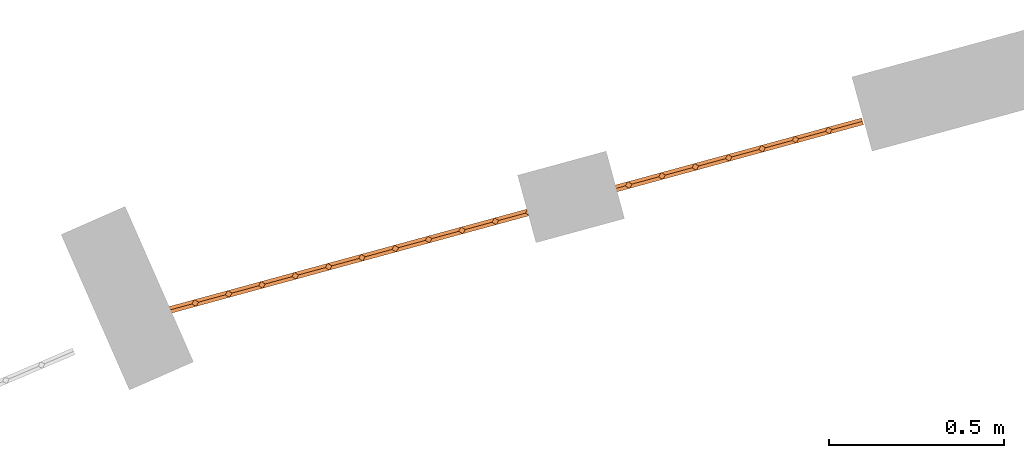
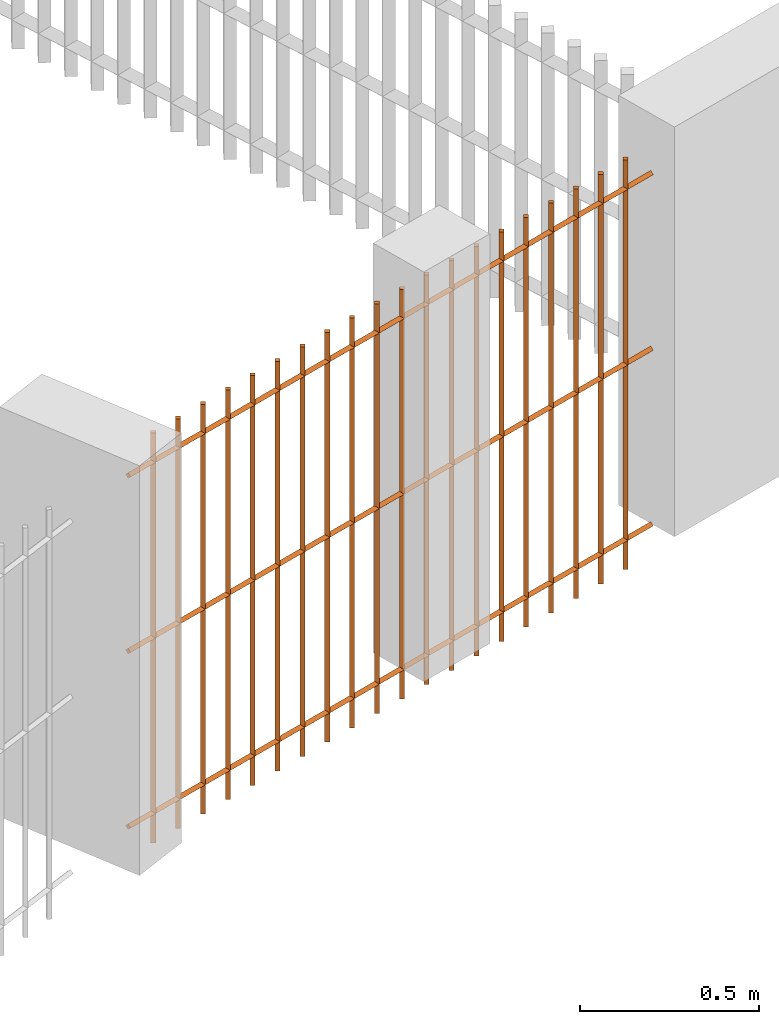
# One storey, part 191 of 195: 1 proxy.
"""IFC2X3 building model written with IfcOpenShell, lengths in metres."""

import ifcopenshell
import ifcopenshell.guid

model = None  # the IFC model being written
_history = None  # IfcOwnerHistory: only IFC2X3 demands one
_inside = {}  # id of a spatial element -> (the spatial element, [elements in it])
_under = {}  # id of a project, library or spatial element -> (it, [spatial elements below it])
_declared = {}  # id of a project -> (the project, [libraries it declares])
_typed = {}  # id of a type object -> (the type object, [elements of that type])
_made_of = {}  # id of a material, layer set ... -> (it, [elements and type objects made of it])


def new_model(schema):
    """Start an empty IFC model of exactly this schema.

    Asked for "IFC4X3", IfcOpenShell would pick the latest addendum, in which some entities
    have other attributes; the version numbers below select the first issue.
    IFC2X3 requires an IfcOwnerHistory on every rooted entity: one is made here for all.
    """
    global model, _history
    if schema == "IFC4X3":
        model = ifcopenshell.file(schema_version=(4, 3, 0, 0))
    else:
        model = ifcopenshell.file(schema=schema)
    _inside.clear()
    _under.clear()
    _declared.clear()
    _typed.clear()
    _made_of.clear()
    _history = None
    if model.schema == "IFC2X3":
        org = make("IfcOrganization", Name="unknown")
        user = make(
            "IfcPersonAndOrganization",
            ThePerson=make("IfcPerson", FamilyName="unknown"),
            TheOrganization=org,
        )
        app = make(
            "IfcApplication",
            ApplicationDeveloper=org,
            Version="unknown",
            ApplicationFullName="unknown",
            ApplicationIdentifier="unknown",
        )
        _history = make(
            "IfcOwnerHistory",
            OwningUser=user,
            OwningApplication=app,
            ChangeAction="ADDED",
            CreationDate=0,
        )
    return model


def make(cls, **values):
    """One entity of the class cls with the attributes given. An attribute that is None is left unset."""
    return model.create_entity(
        cls, **{name: value for name, value in values.items() if value is not None}
    )


def entity(cls, *values):
    """Any entity or typed value of the class cls, its attributes in the order of the schema. None: left unset."""
    e = model.create_entity(cls)
    for i, value in enumerate(values):
        if value is not None:
            e[i] = value
    return e


def rooted(cls, **values):
    """An entity with a GlobalId (a new one), such as an element, a storey or a relation."""
    return make(cls, GlobalId=ifcopenshell.guid.new(), OwnerHistory=_history, **values)


def si_unit(unit_type, name, prefix=None):
    """IfcSIUnit, for example si_unit("LENGTHUNIT", "METRE", prefix="MILLI")."""
    return make("IfcSIUnit", UnitType=unit_type, Prefix=prefix, Name=name)


def converted_unit(unit_type, name, factor, base, dimensions=None, offset=None):
    """IfcConversionBasedUnit, such as the inch: factor (a typed value) times the base unit."""
    return make(
        "IfcConversionBasedUnit"
        if offset is None
        else "IfcConversionBasedUnitWithOffset",
        ConversionOffset=offset,
        Dimensions=None
        if dimensions is None
        else entity("IfcDimensionalExponents", *dimensions),
        UnitType=unit_type,
        Name=name,
        ConversionFactor=make(
            "IfcMeasureWithUnit", ValueComponent=factor, UnitComponent=base
        ),
    )


def derived_unit(unit_type, elements):
    """IfcDerivedUnit: a product of units, each with its exponent."""
    return make(
        "IfcDerivedUnit",
        Elements=[
            make("IfcDerivedUnitElement", Unit=unit, Exponent=power)
            for unit, power in elements
        ],
        UnitType=unit_type,
    )


def money_unit(currency):
    """IfcMonetaryUnit."""
    return make("IfcMonetaryUnit", Currency=currency)


def assignment(units):
    """IfcUnitAssignment: the units of a project."""
    return None if units is None else make("IfcUnitAssignment", Units=units)


def point(xyz):
    """IfcCartesianPoint."""
    return None if xyz is None else make("IfcCartesianPoint", Coordinates=xyz)


def direction(xyz):
    """IfcDirection."""
    return None if xyz is None else make("IfcDirection", DirectionRatios=xyz)


def frame(location, z_axis=None, x_axis=None):
    """IfcAxis2Placement3D, a coordinate frame: its origin and axes. An axis left out is left unset."""
    return make(
        "IfcAxis2Placement3D",
        Location=point(location),
        Axis=direction(z_axis),
        RefDirection=direction(x_axis),
    )


def origin_with_axes():
    """The frame at (0, 0, 0) with the z axis (0, 0, 1) and the x axis (1, 0, 0) written out."""
    return frame((0.0, 0.0, 0.0), z_axis=(0.0, 0.0, 1.0), x_axis=(1.0, 0.0, 0.0))


def place(relative_to, where):
    """IfcLocalPlacement: puts the frame where relative to a parent placement (None: the world)."""
    return make(
        "IfcLocalPlacement", PlacementRelTo=relative_to, RelativePlacement=where
    )


def context(
    kind, dimensions, precision=None, world=None, true_north=None, identifier=None
):
    """IfcGeometricRepresentationContext, for example the 3D "Model" context."""
    return make(
        "IfcGeometricRepresentationContext",
        ContextIdentifier=identifier,
        ContextType=kind,
        CoordinateSpaceDimension=dimensions,
        Precision=precision,
        WorldCoordinateSystem=world,
        TrueNorth=true_north,
    )


def subcontext(parent, identifier, kind, view, scale=None):
    """IfcGeometricRepresentationSubContext, for example "Body" below "Model"."""
    return make(
        "IfcGeometricRepresentationSubContext",
        ContextIdentifier=identifier,
        ContextType=kind,
        ParentContext=parent,
        TargetScale=scale,
        TargetView=view,
    )


def project(units=None, contexts=None):
    """IfcProject with its units and contexts."""
    return rooted(
        "IfcProject",
        Name="project",
        RepresentationContexts=contexts,
        UnitsInContext=assignment(units),
    )


def spatial(cls, under=None, at=None, **own):
    """A site, building, storey or space (cls), placed at a placement, below another one or the project."""
    s = rooted(cls, ObjectPlacement=at, **own)
    if under is not None:
        _under.setdefault(under.id(), (under, []))[1].append(s)
    return s


def faces_of(points, faces, orient=None, outer=None):
    """IfcFace entities. A face is a list of loops; a loop is a list of indices into points, from 0.

    orient and outer hold one flag for each loop. By default every Orientation is true, the
    first loop of a face is its IfcFaceOuterBound and the others are IfcFaceBound.
    """
    made = []
    for i, loops in enumerate(faces):
        bounds = []
        for j, loop in enumerate(loops):
            is_outer = j == 0 if outer is None else outer[i][j]
            bounds.append(
                make(
                    "IfcFaceOuterBound" if is_outer else "IfcFaceBound",
                    Bound=make("IfcPolyLoop", Polygon=[points[k] for k in loop]),
                    Orientation=True if orient is None else orient[i][j],
                )
            )
        made.append(make("IfcFace", Bounds=bounds))
    return made


def faceted_brep(points, faces, orient=None, outer=None, voids=None):
    """IfcFacetedBrep: a solid bounded by flat faces; with voids (closed shells), ...WithVoids."""
    shared = [point(p) for p in points]
    hull = make("IfcClosedShell", CfsFaces=faces_of(shared, faces, orient, outer))
    if voids is None:
        return make("IfcFacetedBrep", Outer=hull)
    return make(
        "IfcFacetedBrepWithVoids",
        Outer=hull,
        Voids=[
            make(cls, CfsFaces=faces_of(shared, fs, o, b)) for cls, fs, o, b in voids
        ],
    )


def shape(context_of_items, identifier, shape_type, items):
    """IfcShapeRepresentation: the items that make up one representation, for example the "Body"."""
    return make(
        "IfcShapeRepresentation",
        ContextOfItems=context_of_items,
        RepresentationIdentifier=identifier,
        RepresentationType=shape_type,
        Items=items,
    )


def made_of(thing, what):
    """Note that an element or type object is made of a material, layer set ...; save() writes the relation."""
    if what is not None:
        _made_of.setdefault(what.id(), (what, []))[1].append(thing)
    return thing


def type_object(cls, material=None, **own):
    """A type object (cls), such as IfcWallType, which elements share."""
    return made_of(rooted(cls, **own), material)


def element(
    cls,
    number,
    at=None,
    inside=None,
    cuts=None,
    type_object=None,
    material=None,
    context=None,
    identifier="Body",
    shape_type=None,
    held_by="IfcProductDefinitionShape",
    body=None,
    shapes=None,
    **own,
):
    """One element of the class cls, such as IfcWall. Its Tag is "e" and its number.

    at: its placement. inside: the storey or other place that contains it. cuts: it is an
    opening in that element (IfcRelVoidsElement). A single representation is given by context,
    identifier, shape_type and body (its items); several are given by shapes. held_by: the class
    of the entity that holds the representations. save() writes the other relations.
    """
    e = rooted(cls, Tag="e%d" % number, ObjectPlacement=at, **own)
    if body is not None:
        shapes = [shape(context, identifier, shape_type, body)]
    if shapes is not None:
        e.Representation = make(held_by, Representations=shapes)
    if inside is not None:
        _inside.setdefault(inside.id(), (inside, []))[1].append(e)
    if cuts is not None:
        rooted(
            "IfcRelVoidsElement", RelatingBuildingElement=cuts, RelatedOpeningElement=e
        )
    if type_object is not None:
        _typed.setdefault(type_object.id(), (type_object, []))[1].append(e)
    return made_of(e, material)


def aggregate(whole, parts):
    """IfcRelAggregates: a whole, such as a stair, and the parts it consists of."""
    return rooted("IfcRelAggregates", RelatingObject=whole, RelatedObjects=parts)


def save(model, path):
    """Write the relations noted so far, then the file.

    IfcRelAggregates (storeys below a building ...), IfcRelContainedInSpatialStructure (elements
    in a storey), IfcRelDefinesByType, IfcRelAssociatesMaterial and IfcRelDeclares: one each for
    every whole, place, type object, material and project.
    """
    for whole, parts in _under.values():
        aggregate(whole, parts)
    for where, things in _inside.values():
        rooted(
            "IfcRelContainedInSpatialStructure",
            RelatedElements=things,
            RelatingStructure=where,
        )
    for kind, things in _typed.values():
        rooted("IfcRelDefinesByType", RelatedObjects=things, RelatingType=kind)
    for what, things in _made_of.values():
        rooted("IfcRelAssociatesMaterial", RelatedObjects=things, RelatingMaterial=what)
    for by, libraries in _declared.values():
        rooted("IfcRelDeclares", RelatingContext=by, RelatedDefinitions=libraries)
    model.write(path)


model = new_model("IFC2X3")

# Units and contexts
model_context = context("Model", 3, precision=1e-05, world=origin_with_axes(), true_north=direction((0.0, 1.0)))
body_context = subcontext(model_context, "Body", "Model", "MODEL_VIEW")
ifc_project = project(units=[si_unit("LENGTHUNIT", "METRE"), si_unit("AREAUNIT", "SQUARE_METRE"), si_unit("VOLUMEUNIT", "CUBIC_METRE"), converted_unit("PLANEANGLEUNIT", "DEGREE", entity("IfcPlaneAngleMeasure", 0.0174532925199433), si_unit("PLANEANGLEUNIT", "RADIAN"), dimensions=[0, 0, 0, 0, 0, 0, 0]), money_unit("CHF"), converted_unit("TIMEUNIT", "Year", entity("IfcTimeMeasure", 31557600.0), si_unit("TIMEUNIT", "SECOND"), dimensions=[0, 0, 1, 0, 0, 0, 0]), si_unit("MASSUNIT", "GRAM", prefix="KILO"), si_unit("THERMODYNAMICTEMPERATUREUNIT", "DEGREE_CELSIUS"), si_unit("LUMINOUSINTENSITYUNIT", "LUMEN"), si_unit("ENERGYUNIT", "JOULE", prefix="MEGA"), derived_unit("THERMALCONDUCTANCEUNIT", [(si_unit("POWERUNIT", "WATT"), 1), (si_unit("LENGTHUNIT", "METRE"), -1), (si_unit("THERMODYNAMICTEMPERATUREUNIT", "KELVIN"), -1)]), derived_unit("SPECIFICHEATCAPACITYUNIT", [(si_unit("ENERGYUNIT", "JOULE"), 1), (si_unit("MASSUNIT", "GRAM", prefix="KILO"), -1), (si_unit("THERMODYNAMICTEMPERATUREUNIT", "KELVIN"), -1)]), derived_unit("MASSDENSITYUNIT", [(si_unit("MASSUNIT", "GRAM", prefix="KILO"), 1), (si_unit("VOLUMEUNIT", "CUBIC_METRE"), -1)])], contexts=[model_context])

# Site, building, storey
site_placement = place(None, origin_with_axes())
site = spatial("IfcSite", under=ifc_project, at=site_placement, Name="Site", CompositionType="ELEMENT")
building_placement = place(site_placement, origin_with_axes())
building = spatial("IfcBuilding", under=site, at=building_placement, Name="Bâtiment", CompositionType="ELEMENT")
storey_placement = place(building_placement, origin_with_axes())
storey = spatial("IfcBuildingStorey", under=building, at=storey_placement, Name="rdc", CompositionType="ELEMENT", Elevation=0.0)

# Proxy
building_element_proxy_type = type_object("IfcBuildingElementProxyType", Name="Grille anti-effraction", PredefinedType="NOTDEFINED")
proxy_placement = place(storey_placement, frame((9583.670518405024, -1060.989714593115, 57.6), z_axis=(0.0, 0.0, 1.0), x_axis=(-0.9648682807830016, -0.2627340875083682, 0.0)))
element("IfcBuildingElementProxy", 1, at=proxy_placement, inside=storey, type_object=building_element_proxy_type, Name="Obj.-010", context=body_context, shape_type="Brep", body=[
    faceted_brep([(-1.038814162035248, -0.01, 0.1), (-1.038814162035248, 0.0, 0.11), (-1.038814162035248, 0.01, 0.1), (-1.038814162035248, 0.0, 0.09000000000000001), (1.038814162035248, -0.01, 0.1000000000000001), (1.038814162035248, 0.0, 0.1100000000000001), (1.038814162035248, 0.01, 0.1000000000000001), (1.038814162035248, 0.0, 0.09000000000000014)], [[[0, 1, 2, 3]], [[1, 0, 4, 5]], [[2, 1, 5, 6]], [[3, 2, 6, 7]], [[0, 3, 7, 4]], [[4, 7, 6, 5]]]),
    faceted_brep([(-1.038814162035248, -0.01, 0.7), (-1.038814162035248, 0.0, 0.71), (-1.038814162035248, 0.01, 0.7), (-1.038814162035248, 0.0, 0.69), (1.038814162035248, -0.01, 0.7000000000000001), (1.038814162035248, 0.0, 0.7100000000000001), (1.038814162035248, 0.01, 0.7000000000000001), (1.038814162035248, 0.0, 0.6900000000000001)], [[[0, 1, 2, 3]], [[1, 0, 4, 5]], [[2, 1, 5, 6]], [[3, 2, 6, 7]], [[0, 3, 7, 4]], [[4, 7, 6, 5]]]),
    faceted_brep([(-1.038814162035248, -0.01, 1.3), (-1.038814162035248, 0.0, 1.31), (-1.038814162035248, 0.01, 1.3), (-1.038814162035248, 0.0, 1.29), (1.038814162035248, -0.01, 1.3), (1.038814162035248, 0.0, 1.31), (1.038814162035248, 0.01, 1.3), (1.038814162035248, 0.0, 1.29)], [[[0, 1, 2, 3]], [[1, 0, 4, 5]], [[2, 1, 5, 6]], [[3, 2, 6, 7]], [[0, 3, 7, 4]], [[4, 7, 6, 5]]]),
    faceted_brep([(-0.9388141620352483, -0.01, 0.0), (-0.9488141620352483, 0.0, 0.0), (-0.9388141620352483, 0.01, 0.0), (-0.9288141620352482, 0.0, 0.0), (-0.9388141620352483, -0.01, 1.4), (-0.9488141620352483, 0.0, 1.4), (-0.9388141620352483, 0.01, 1.4), (-0.9288141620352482, 0.0, 1.4)], [[[0, 1, 2, 3]], [[1, 0, 4, 5]], [[2, 1, 5, 6]], [[3, 2, 6, 7]], [[0, 3, 7, 4]], [[4, 7, 6, 5]]]),
    faceted_brep([(-0.8399916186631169, -0.01, 0.0), (-0.8499916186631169, 0.0, 0.0), (-0.8399916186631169, 0.01, 0.0), (-0.8299916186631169, 0.0, 0.0), (-0.8399916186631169, -0.01, 1.4), (-0.8499916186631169, 0.0, 1.4), (-0.8399916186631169, 0.01, 1.4), (-0.8299916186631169, 0.0, 1.4)], [[[0, 1, 2, 3]], [[1, 0, 4, 5]], [[2, 1, 5, 6]], [[3, 2, 6, 7]], [[0, 3, 7, 4]], [[4, 7, 6, 5]]]),
    faceted_brep([(-0.7411690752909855, -0.01, 0.0), (-0.7511690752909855, 0.0, 0.0), (-0.7411690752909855, 0.01, 0.0), (-0.7311690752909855, 0.0, 0.0), (-0.7411690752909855, -0.01, 1.4), (-0.7511690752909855, 0.0, 1.4), (-0.7411690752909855, 0.01, 1.4), (-0.7311690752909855, 0.0, 1.4)], [[[0, 1, 2, 3]], [[1, 0, 4, 5]], [[2, 1, 5, 6]], [[3, 2, 6, 7]], [[0, 3, 7, 4]], [[4, 7, 6, 5]]]),
    faceted_brep([(-0.6423465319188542, -0.01, 0.0), (-0.6523465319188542, 0.0, 0.0), (-0.6423465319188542, 0.01, 0.0), (-0.6323465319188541, 0.0, 0.0), (-0.6423465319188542, -0.01, 1.4), (-0.6523465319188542, 0.0, 1.4), (-0.6423465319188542, 0.01, 1.4), (-0.6323465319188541, 0.0, 1.4)], [[[0, 1, 2, 3]], [[1, 0, 4, 5]], [[2, 1, 5, 6]], [[3, 2, 6, 7]], [[0, 3, 7, 4]], [[4, 7, 6, 5]]]),
    faceted_brep([(-0.5435239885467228, -0.01, 0.0), (-0.5535239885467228, 0.0, 0.0), (-0.5435239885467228, 0.01, 0.0), (-0.5335239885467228, 0.0, 0.0), (-0.5435239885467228, -0.01, 1.4), (-0.5535239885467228, 0.0, 1.4), (-0.5435239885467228, 0.01, 1.4), (-0.5335239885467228, 0.0, 1.4)], [[[0, 1, 2, 3]], [[1, 0, 4, 5]], [[2, 1, 5, 6]], [[3, 2, 6, 7]], [[0, 3, 7, 4]], [[4, 7, 6, 5]]]),
    faceted_brep([(-0.4447014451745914, -0.01, 0.0), (-0.4547014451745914, 0.0, 0.0), (-0.4447014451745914, 0.01, 0.0), (-0.4347014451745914, 0.0, 0.0), (-0.4447014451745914, -0.01, 1.4), (-0.4547014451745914, 0.0, 1.4), (-0.4447014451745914, 0.01, 1.4), (-0.4347014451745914, 0.0, 1.4)], [[[0, 1, 2, 3]], [[1, 0, 4, 5]], [[2, 1, 5, 6]], [[3, 2, 6, 7]], [[0, 3, 7, 4]], [[4, 7, 6, 5]]]),
    faceted_brep([(-0.3458789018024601, -0.01, 0.0), (-0.3558789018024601, 0.0, 0.0), (-0.3458789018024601, 0.01, 0.0), (-0.3358789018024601, 0.0, 0.0), (-0.3458789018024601, -0.01, 1.4), (-0.3558789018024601, 0.0, 1.4), (-0.3458789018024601, 0.01, 1.4), (-0.3358789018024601, 0.0, 1.4)], [[[0, 1, 2, 3]], [[1, 0, 4, 5]], [[2, 1, 5, 6]], [[3, 2, 6, 7]], [[0, 3, 7, 4]], [[4, 7, 6, 5]]]),
    faceted_brep([(-0.2470563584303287, -0.01, 0.0), (-0.2570563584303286, 0.0, 0.0), (-0.2470563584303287, 0.01, 0.0), (-0.2370563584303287, 0.0, 0.0), (-0.2470563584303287, -0.01, 1.4), (-0.2570563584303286, 0.0, 1.4), (-0.2470563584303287, 0.01, 1.4), (-0.2370563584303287, 0.0, 1.4)], [[[0, 1, 2, 3]], [[1, 0, 4, 5]], [[2, 1, 5, 6]], [[3, 2, 6, 7]], [[0, 3, 7, 4]], [[4, 7, 6, 5]]]),
    faceted_brep([(-0.1482338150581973, -0.01, 0.0), (-0.1582338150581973, 0.0, 0.0), (-0.1482338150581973, 0.01, 0.0), (-0.1382338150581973, 0.0, 0.0), (-0.1482338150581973, -0.01, 1.4), (-0.1582338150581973, 0.0, 1.4), (-0.1482338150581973, 0.01, 1.4), (-0.1382338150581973, 0.0, 1.4)], [[[0, 1, 2, 3]], [[1, 0, 4, 5]], [[2, 1, 5, 6]], [[3, 2, 6, 7]], [[0, 3, 7, 4]], [[4, 7, 6, 5]]]),
    faceted_brep([(-0.04941127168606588, -0.01, 0.0), (-0.05941127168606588, 0.0, 0.0), (-0.04941127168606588, 0.01, 0.0), (-0.03941127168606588, 0.0, 0.0), (-0.04941127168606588, -0.01, 1.4), (-0.05941127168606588, 0.0, 1.4), (-0.04941127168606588, 0.01, 1.4), (-0.03941127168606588, 0.0, 1.4)], [[[0, 1, 2, 3]], [[1, 0, 4, 5]], [[2, 1, 5, 6]], [[3, 2, 6, 7]], [[0, 3, 7, 4]], [[4, 7, 6, 5]]]),
    faceted_brep([(0.04941127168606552, -0.01, 0.0), (0.03941127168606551, 0.0, 0.0), (0.04941127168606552, 0.01, 0.0), (0.05941127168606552, 0.0, 0.0), (0.04941127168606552, -0.01, 1.4), (0.03941127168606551, 0.0, 1.4), (0.04941127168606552, 0.01, 1.4), (0.05941127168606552, 0.0, 1.4)], [[[0, 1, 2, 3]], [[1, 0, 4, 5]], [[2, 1, 5, 6]], [[3, 2, 6, 7]], [[0, 3, 7, 4]], [[4, 7, 6, 5]]]),
    faceted_brep([(0.1482338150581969, -0.01, 0.0), (0.1382338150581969, 0.0, 0.0), (0.1482338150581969, 0.01, 0.0), (0.1582338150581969, 0.0, 0.0), (0.1482338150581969, -0.01, 1.4), (0.1382338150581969, 0.0, 1.4), (0.1482338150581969, 0.01, 1.4), (0.1582338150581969, 0.0, 1.4)], [[[0, 1, 2, 3]], [[1, 0, 4, 5]], [[2, 1, 5, 6]], [[3, 2, 6, 7]], [[0, 3, 7, 4]], [[4, 7, 6, 5]]]),
    faceted_brep([(0.2470563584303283, -0.01, 0.0), (0.2370563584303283, 0.0, 0.0), (0.2470563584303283, 0.01, 0.0), (0.2570563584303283, 0.0, 0.0), (0.2470563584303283, -0.01, 1.4), (0.2370563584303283, 0.0, 1.4), (0.2470563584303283, 0.01, 1.4), (0.2570563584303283, 0.0, 1.4)], [[[0, 1, 2, 3]], [[1, 0, 4, 5]], [[2, 1, 5, 6]], [[3, 2, 6, 7]], [[0, 3, 7, 4]], [[4, 7, 6, 5]]]),
    faceted_brep([(0.3458789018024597, -0.01, 0.0), (0.3358789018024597, 0.0, 0.0), (0.3458789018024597, 0.01, 0.0), (0.3558789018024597, 0.0, 0.0), (0.3458789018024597, -0.01, 1.4), (0.3358789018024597, 0.0, 1.4), (0.3458789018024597, 0.01, 1.4), (0.3558789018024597, 0.0, 1.4)], [[[0, 1, 2, 3]], [[1, 0, 4, 5]], [[2, 1, 5, 6]], [[3, 2, 6, 7]], [[0, 3, 7, 4]], [[4, 7, 6, 5]]]),
    faceted_brep([(0.4447014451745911, -0.01, 0.0), (0.4347014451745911, 0.0, 0.0), (0.4447014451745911, 0.01, 0.0), (0.4547014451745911, 0.0, 0.0), (0.4447014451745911, -0.01, 1.4), (0.4347014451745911, 0.0, 1.4), (0.4447014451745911, 0.01, 1.4), (0.4547014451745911, 0.0, 1.4)], [[[0, 1, 2, 3]], [[1, 0, 4, 5]], [[2, 1, 5, 6]], [[3, 2, 6, 7]], [[0, 3, 7, 4]], [[4, 7, 6, 5]]]),
    faceted_brep([(0.5435239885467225, -0.01, 0.0), (0.5335239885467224, 0.0, 0.0), (0.5435239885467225, 0.01, 0.0), (0.5535239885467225, 0.0, 0.0), (0.5435239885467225, -0.01, 1.4), (0.5335239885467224, 0.0, 1.4), (0.5435239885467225, 0.01, 1.4), (0.5535239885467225, 0.0, 1.4)], [[[0, 1, 2, 3]], [[1, 0, 4, 5]], [[2, 1, 5, 6]], [[3, 2, 6, 7]], [[0, 3, 7, 4]], [[4, 7, 6, 5]]]),
    faceted_brep([(0.6423465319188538, -0.01, 0.0), (0.6323465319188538, 0.0, 0.0), (0.6423465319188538, 0.01, 0.0), (0.6523465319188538, 0.0, 0.0), (0.6423465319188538, -0.01, 1.4), (0.6323465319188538, 0.0, 1.4), (0.6423465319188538, 0.01, 1.4), (0.6523465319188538, 0.0, 1.4)], [[[0, 1, 2, 3]], [[1, 0, 4, 5]], [[2, 1, 5, 6]], [[3, 2, 6, 7]], [[0, 3, 7, 4]], [[4, 7, 6, 5]]]),
    faceted_brep([(0.7411690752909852, -0.01, 0.0), (0.7311690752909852, 0.0, 0.0), (0.7411690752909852, 0.01, 0.0), (0.7511690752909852, 0.0, 0.0), (0.7411690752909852, -0.01, 1.4), (0.7311690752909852, 0.0, 1.4), (0.7411690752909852, 0.01, 1.4), (0.7511690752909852, 0.0, 1.4)], [[[0, 1, 2, 3]], [[1, 0, 4, 5]], [[2, 1, 5, 6]], [[3, 2, 6, 7]], [[0, 3, 7, 4]], [[4, 7, 6, 5]]]),
    faceted_brep([(0.8399916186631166, -0.01, 0.0), (0.8299916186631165, 0.0, 0.0), (0.8399916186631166, 0.01, 0.0), (0.8499916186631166, 0.0, 0.0), (0.8399916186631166, -0.01, 1.4), (0.8299916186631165, 0.0, 1.4), (0.8399916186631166, 0.01, 1.4), (0.8499916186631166, 0.0, 1.4)], [[[0, 1, 2, 3]], [[1, 0, 4, 5]], [[2, 1, 5, 6]], [[3, 2, 6, 7]], [[0, 3, 7, 4]], [[4, 7, 6, 5]]]),
    faceted_brep([(0.9388141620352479, -0.01, 0.0), (0.9288141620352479, 0.0, 0.0), (0.9388141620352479, 0.01, 0.0), (0.9488141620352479, 0.0, 0.0), (0.9388141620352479, -0.01, 1.4), (0.9288141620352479, 0.0, 1.4), (0.9388141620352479, 0.01, 1.4), (0.9488141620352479, 0.0, 1.4)], [[[0, 1, 2, 3]], [[1, 0, 4, 5]], [[2, 1, 5, 6]], [[3, 2, 6, 7]], [[0, 3, 7, 4]], [[4, 7, 6, 5]]]),
])

save(model, "model.ifc")
